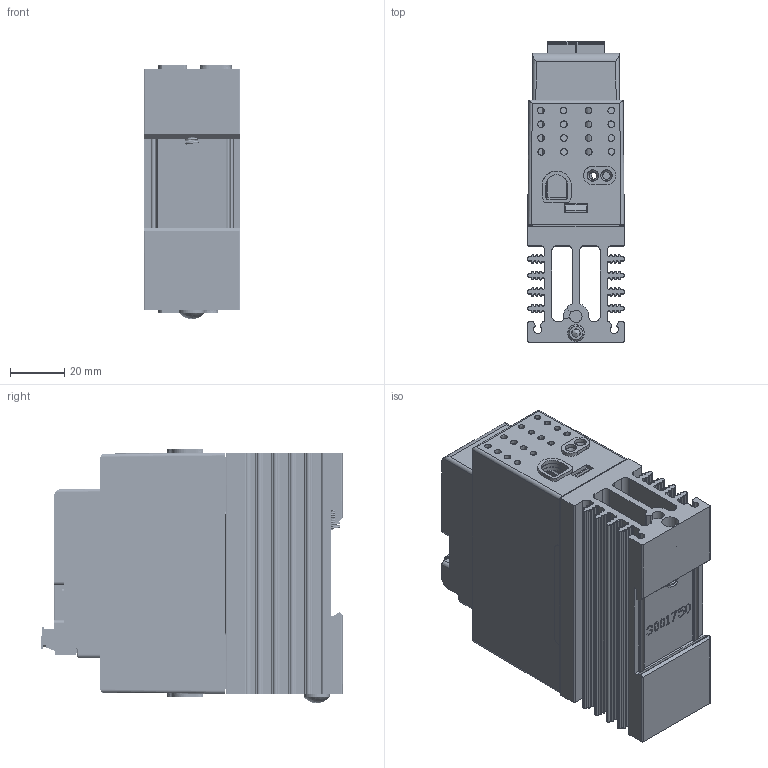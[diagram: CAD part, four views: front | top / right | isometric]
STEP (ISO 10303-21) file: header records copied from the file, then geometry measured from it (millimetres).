
FILE_DESCRIPTION(/* description */ (''),/* implementation_level */ '2;1');
FILE_NAME(/* name */ '1-phase EtherCAT 25A.stp',/* time_stamp */ '2024-11-12T08:48:27-06:00',/* author */ ('ErikG'),/* organization */ (''),/* preprocessor_version */ 'ST-DEVELOPER v20',/* originating_system */ 'Autodesk Inventor 2025',/* authorisation */ '');
FILE_SCHEMA (('AUTOMOTIVE_DESIGN { 1 0 10303 214 3 1 1 }'));
Products named in the file (30): 3001631e; 3001761; 1001600G; P11; P6; fci 6 pin header OQ06120000J0G; fci 6 pin headerOQ06120000J0G half 1; fci 5 pin header OQ05120000J0G half 2; fci 6 pin connector TS06110B00J0G; fci 5 pin connector TS05110B00J0G LEFT HALF; fci 5 pin connector TS05110B00J0G RIGHT HALF; P3; usb-c31-s-vt-cs4-bk-pp-t-r-model ADAMTECH; P5; 74990101210 (rev1); base; shielding; top board erase; SW3; SW2; SH-7070TA; _SH-7070A_body; _SH-700-Without knob (Minus slot); 3001763; 3001755; 3001756; 3001750; 0060702-1032-0375; spring; 0060783-0610-010.ipt
Assembly tree (33 placements, depth 6):
  3001631e
    3001761  x3
    1001600G
      P11
        74990101210 (rev1)
          base
          shielding
      P6
        fci 6 pin header OQ06120000J0G
          fci 6 pin headerOQ06120000J0G half 1
          fci 5 pin header OQ05120000J0G half 2
          fci 6 pin connector TS06110B00J0G
            fci 5 pin connector TS05110B00J0G LEFT HALF
            fci 5 pin connector TS05110B00J0G RIGHT HALF
      P3
        usb-c31-s-vt-cs4-bk-pp-t-r-model ADAMTECH
      P5
        74990101210 (rev1)
          base
          shielding
      top board erase
        SW3
          SH-7070TA
            _SH-7070A_body
            _SH-700-Without knob (Minus slot)
        SW2
          SH-7070TA
            _SH-7070A_body
            _SH-700-Without knob (Minus slot)
    3001763
    3001755
    3001756
    3001750
    0060702-1032-0375
    spring
    0060783-0610-010.ipt
Bounding box: 35.56 x 110.94 x 93.49 mm (x, y, z)
Volume: 128433.8 mm3; surface area: 130690.6 mm2
Topology: 24 solids, 114 shells, 9079 faces, 25293 edges, 16589 vertices
Faces by surface type: plane 7293, cylinder 1386, cone 201, bspline 111, torus 69, sphere 19
Full cylindrical faces by diameter (mm): 0.254 x1, 0.45 x2, 0.55 x2, 0.65 x2, 1 x2, 1.2 x2, 2.3 x12, 2.642 x3, 2.95 x6, 3.277 x2, 3.28 x2, 3.3 x2, 3.4 x2, 3.42 x2, 4 x2, 4.826 x1, 4.917 x1, 6 x1, 6.172 x1, 9.474 x1
Entity records: 235822 total; most frequent: CARTESIAN_POINT 55741, ORIENTED_EDGE 38080, DIRECTION 35004, EDGE_CURVE 19040, LINE 15520, VECTOR 15520, VERTEX_POINT 12495, AXIS2_PLACEMENT_3D 9742
